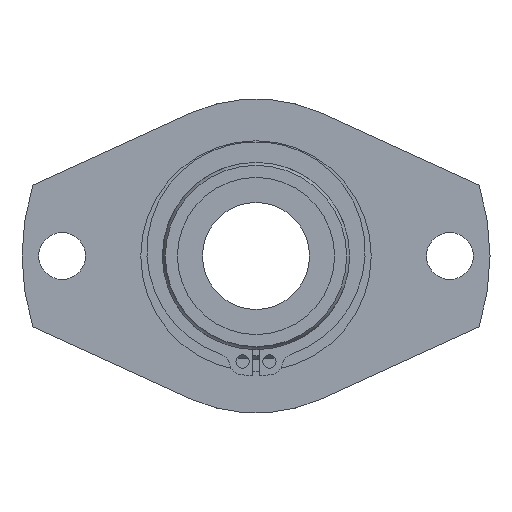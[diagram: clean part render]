
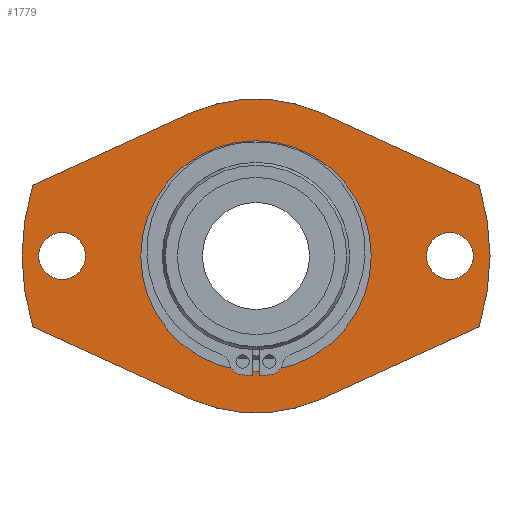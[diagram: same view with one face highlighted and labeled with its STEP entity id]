
A CAD part, left-side view. The second image highlights one B-rep face of the part: STEP entity #1779.
In plain terms, the highlighted planar face has unit normal (-1, 0, 0).
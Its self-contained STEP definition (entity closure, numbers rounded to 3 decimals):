
#1535=CARTESIAN_POINT('',(-8.,-32.5,0.));
#1536=VERTEX_POINT('',#1535);
#1537=CARTESIAN_POINT('',(-8.,-29.,0.0));
#1538=DIRECTION('',(1.0,0.0,0.0));
#1539=DIRECTION('',(0.0,1.0,0.0));
#1540=AXIS2_PLACEMENT_3D('',#1537,#1538,#1539);
#1541=CIRCLE('',#1540,3.5);
#1542=EDGE_CURVE('',#1536,#1536,#1541,.T.);
#1584=CARTESIAN_POINT('',(-8.,25.5,0.));
#1585=VERTEX_POINT('',#1584);
#1586=CARTESIAN_POINT('',(-8.,29.,0.0));
#1587=DIRECTION('',(1.0,0.0,0.0));
#1588=DIRECTION('',(0.0,1.0,0.0));
#1589=AXIS2_PLACEMENT_3D('',#1586,#1587,#1588);
#1590=CIRCLE('',#1589,3.5);
#1591=EDGE_CURVE('',#1585,#1585,#1590,.T.);
#1622=CARTESIAN_POINT('',(-8.0,9.745,-21.384));
#1623=VERTEX_POINT('',#1622);
#1630=CARTESIAN_POINT('',(-8.0,33.347,-10.628));
#1631=VERTEX_POINT('',#1630);
#1632=CARTESIAN_POINT('',(-8.0,9.745,-21.384));
#1633=DIRECTION('',(0.0,0.91,0.415));
#1634=VECTOR('',#1633,25.937);
#1635=LINE('',#1632,#1634);
#1636=EDGE_CURVE('',#1623,#1631,#1635,.T.);
#1662=CARTESIAN_POINT('',(-8.0,33.347,10.628));
#1663=VERTEX_POINT('',#1662);
#1664=CARTESIAN_POINT('',(-8.0,0.0,0.));
#1665=DIRECTION('',(1.0,0.0,0.0));
#1666=DIRECTION('',(0.0,1.0,0.0));
#1667=AXIS2_PLACEMENT_3D('',#1664,#1665,#1666);
#1668=CIRCLE('',#1667,35.0);
#1669=EDGE_CURVE('',#1631,#1663,#1668,.T.);
#1694=CARTESIAN_POINT('',(-8.0,9.745,21.384));
#1695=VERTEX_POINT('',#1694);
#1696=CARTESIAN_POINT('',(-8.0,33.347,10.628));
#1697=DIRECTION('',(0.0,-0.91,0.415));
#1698=VECTOR('',#1697,25.937);
#1699=LINE('',#1696,#1698);
#1700=EDGE_CURVE('',#1663,#1695,#1699,.T.);
#1711=CARTESIAN_POINT('',(-8.0,22.143,0.));
#1712=DIRECTION('',(1.0,0.0,0.0));
#1713=DIRECTION('',(0.0,0.0,-1.0));
#1714=AXIS2_PLACEMENT_3D('',#1711,#1712,#1713);
#1715=PLANE('',#1714);
#1716=ORIENTED_EDGE('',*,*,#1636,.F.);
#1717=CARTESIAN_POINT('',(-8.0,-9.745,-21.384));
#1718=VERTEX_POINT('',#1717);
#1719=CARTESIAN_POINT('',(-8.0,0.0,0.));
#1720=DIRECTION('',(1.0,0.0,0.0));
#1721=DIRECTION('',(0.0,1.0,0.0));
#1722=AXIS2_PLACEMENT_3D('',#1719,#1720,#1721);
#1723=CIRCLE('',#1722,23.5);
#1724=EDGE_CURVE('',#1718,#1623,#1723,.T.);
#1725=ORIENTED_EDGE('',*,*,#1724,.F.);
#1726=CARTESIAN_POINT('',(-8.0,-33.347,-10.628));
#1727=VERTEX_POINT('',#1726);
#1728=CARTESIAN_POINT('',(-8.0,-33.347,-10.628));
#1729=DIRECTION('',(0.0,0.91,-0.415));
#1730=VECTOR('',#1729,25.937);
#1731=LINE('',#1728,#1730);
#1732=EDGE_CURVE('',#1727,#1718,#1731,.T.);
#1733=ORIENTED_EDGE('',*,*,#1732,.F.);
#1734=CARTESIAN_POINT('',(-8.0,-33.347,10.628));
#1735=VERTEX_POINT('',#1734);
#1736=CARTESIAN_POINT('',(-8.0,0.0,0.));
#1737=DIRECTION('',(1.0,0.0,0.0));
#1738=DIRECTION('',(0.0,1.0,0.0));
#1739=AXIS2_PLACEMENT_3D('',#1736,#1737,#1738);
#1740=CIRCLE('',#1739,35.0);
#1741=EDGE_CURVE('',#1735,#1727,#1740,.T.);
#1742=ORIENTED_EDGE('',*,*,#1741,.F.);
#1743=CARTESIAN_POINT('',(-8.0,-9.745,21.384));
#1744=VERTEX_POINT('',#1743);
#1745=CARTESIAN_POINT('',(-8.0,-9.745,21.384));
#1746=DIRECTION('',(0.0,-0.91,-0.415));
#1747=VECTOR('',#1746,25.937);
#1748=LINE('',#1745,#1747);
#1749=EDGE_CURVE('',#1744,#1735,#1748,.T.);
#1750=ORIENTED_EDGE('',*,*,#1749,.F.);
#1751=CARTESIAN_POINT('',(-8.0,0.0,0.));
#1752=DIRECTION('',(1.0,0.0,0.0));
#1753=DIRECTION('',(0.0,1.0,0.0));
#1754=AXIS2_PLACEMENT_3D('',#1751,#1752,#1753);
#1755=CIRCLE('',#1754,23.5);
#1756=EDGE_CURVE('',#1695,#1744,#1755,.T.);
#1757=ORIENTED_EDGE('',*,*,#1756,.F.);
#1758=ORIENTED_EDGE('',*,*,#1700,.F.);
#1759=ORIENTED_EDGE('',*,*,#1669,.F.);
#1760=EDGE_LOOP('',(#1716,#1725,#1733,#1742,#1750,#1757,#1758,#1759));
#1761=FACE_OUTER_BOUND('',#1760,.T.);
#1762=ORIENTED_EDGE('',*,*,#1542,.T.);
#1763=EDGE_LOOP('',(#1762));
#1764=FACE_BOUND('',#1763,.T.);
#1765=ORIENTED_EDGE('',*,*,#1591,.T.);
#1766=EDGE_LOOP('',(#1765));
#1767=FACE_BOUND('',#1766,.T.);
#1768=CARTESIAN_POINT('',(-8.0,0.,17.234));
#1769=VERTEX_POINT('',#1768);
#1770=CARTESIAN_POINT('',(-8.0,0.0,0.0));
#1771=DIRECTION('',(1.0,0.0,0.0));
#1772=DIRECTION('',(0.0,0.0,-1.0));
#1773=AXIS2_PLACEMENT_3D('',#1770,#1771,#1772);
#1774=CIRCLE('',#1773,17.234);
#1775=EDGE_CURVE('',#1769,#1769,#1774,.T.);
#1776=ORIENTED_EDGE('',*,*,#1775,.T.);
#1777=EDGE_LOOP('',(#1776));
#1778=FACE_BOUND('',#1777,.T.);
#1779=ADVANCED_FACE('',(#1761,#1764,#1767,#1778),#1715,.F.);
